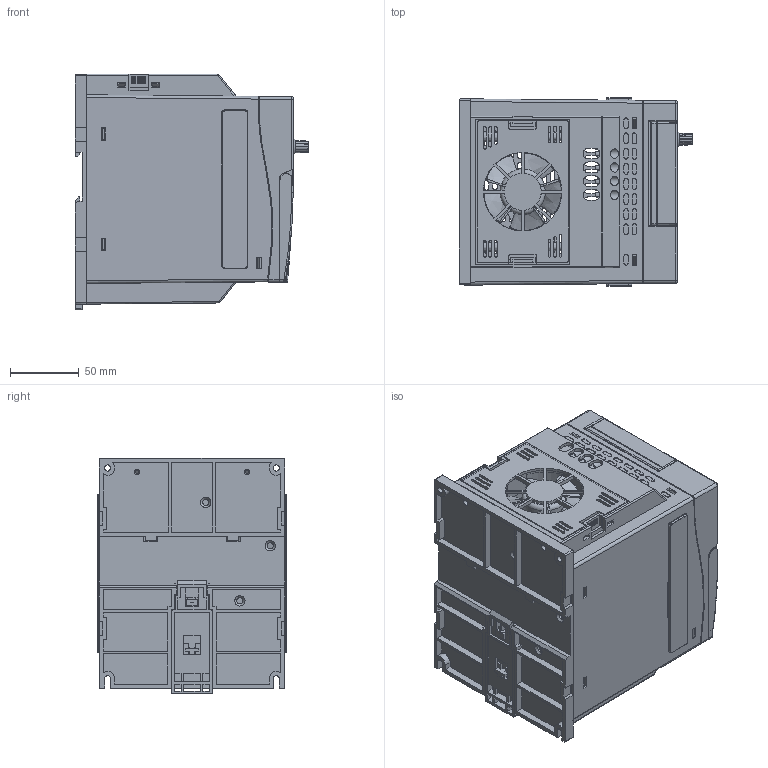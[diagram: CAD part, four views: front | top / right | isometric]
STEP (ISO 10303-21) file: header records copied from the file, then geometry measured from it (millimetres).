
FILE_DESCRIPTION(('STEP AP203'), '1');
FILE_NAME('Ïðåîáðàçîâàòåëü ÷àñòîòû _ MCI-G4.0-4B', '', ('UNSPECIFIED'), ('UNSPECIFIED'), 'C3D Converter', 'C3D Toolkit', '');
FILE_SCHEMA(('CONFIG_CONTROL_DESIGN'));
Length unit declared in the file: millimetre
Products named in the file (15): MCI-G4.0-4B; MCI-G4.0; MCI-KP-S; ПУ - MCI-KP-S
Assembly tree (15 placements, depth 3):
  MCI-G4.0-4B
    MCI-G4.0
    MCI-G4.0
    MCI-G4.0
    MCI-G4.0
      MCI-G4.0
      (unnamed)
    MCI-G4.0  x2
    MCI-G4.0
    MCI-G4.0
    MCI-KP-S
      ПУ - MCI-KP-S
      ПУ - MCI-KP-S
      ПУ - MCI-KP-S
      ПУ - MCI-KP-S
Bounding box: 169.7 x 136.67 x 171.15 mm (x, y, z)
Volume: 398391.4 mm3; surface area: 400078.8 mm2
Topology: 32 solids, 33 shells, 3018 faces, 8239 edges, 5382 vertices
Faces by surface type: plane 2118, cylinder 591, bspline 101, torus 72, cone 67, extrusion 59, sphere 10
Full cylindrical faces by diameter (mm): 1 x2, 1.2 x2, 1.4 x4, 1.8 x4, 2 x2, 2.2 x8, 2.3 x2, 3 x18, 3.5 x4, 4 x11, 4.5 x10, 5 x6, 5.2 x4, 5.5 x2, 5.8 x4, 6.2 x2, 7 x9, 9 x9, 10 x1, 12 x1, 33 x1
Entity records: 112422 total; most frequent: CARTESIAN_POINT 35127, ORIENTED_EDGE 15883, DIRECTION 14232, EDGE_CURVE 7943, VECTOR 6016, LINE 5957, VERTEX_POINT 5297, AXIS2_PLACEMENT_3D 4108
